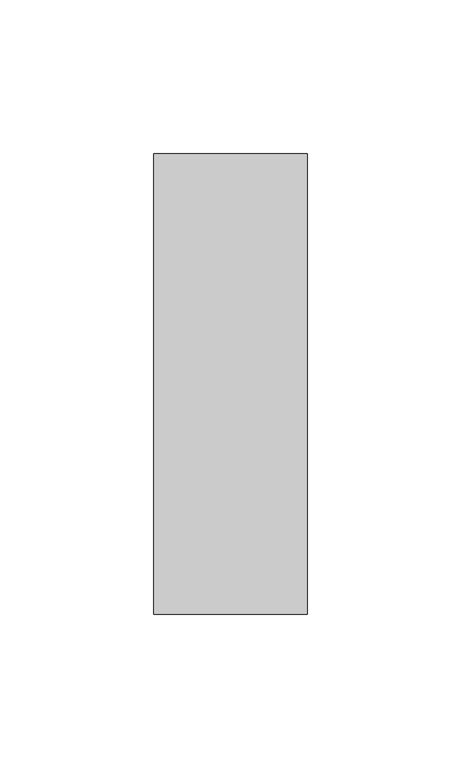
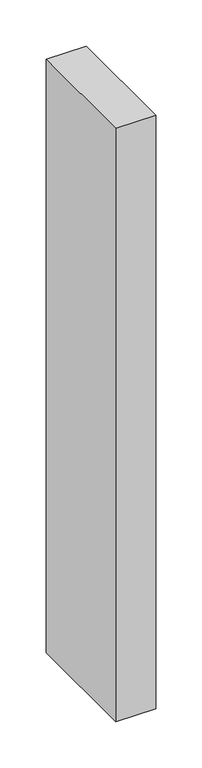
"""IFC4 building model written with IfcOpenShell, lengths in millimetres: member geometry, Прямоугольный импост : 50 x 150 мм."""

from ifc_helpers import new_model, si_unit, frame, origin, place, context, project, spatial, polyline, outline, extrude, source, transform, mapped, element, save


def member_af6caba6(model_context):
    return source(origin(), model_context, "Body", "SweptSolid", [
        extrude(outline(polyline([(25.0, 75.0), (25.0, -75.0), (-25.0, -75.0), (-25.0, 75.0), (25.0, 75.0)])), frame((0.0, 0.0, -784.021416), z_axis=(0.0, 0.0, 1.0), x_axis=(1.0, 0.0, 0.0)), (0.0, 0.0, 1.0), 784.021416),
    ])


if __name__ == "__main__":
    model = new_model("IFC4")
    model_context = context("Model", 3, world=origin())
    ifc_project = project(units=[si_unit("LENGTHUNIT", "METRE", prefix="MILLI")], contexts=[model_context])
    site = spatial("IfcSite", under=ifc_project)
    building = spatial("IfcBuilding", under=site)
    placement = place(None, origin())
    member_shape = member_af6caba6(model_context)
    element("IfcMember", 1, ObjectType="Прямоугольный импост : 50 x 150 мм", at=placement, inside=building, context=model_context, shape_type="MappedRepresentation", body=[
        mapped(member_shape, transform((0.0, 0.0, 0.0), x_axis=(1.0, 0.0, 0.0), y_axis=(0.0, 1.0, 0.0), z_axis=(0.0, 0.0, 1.0))),
    ])
    save(model, "model.ifc")
